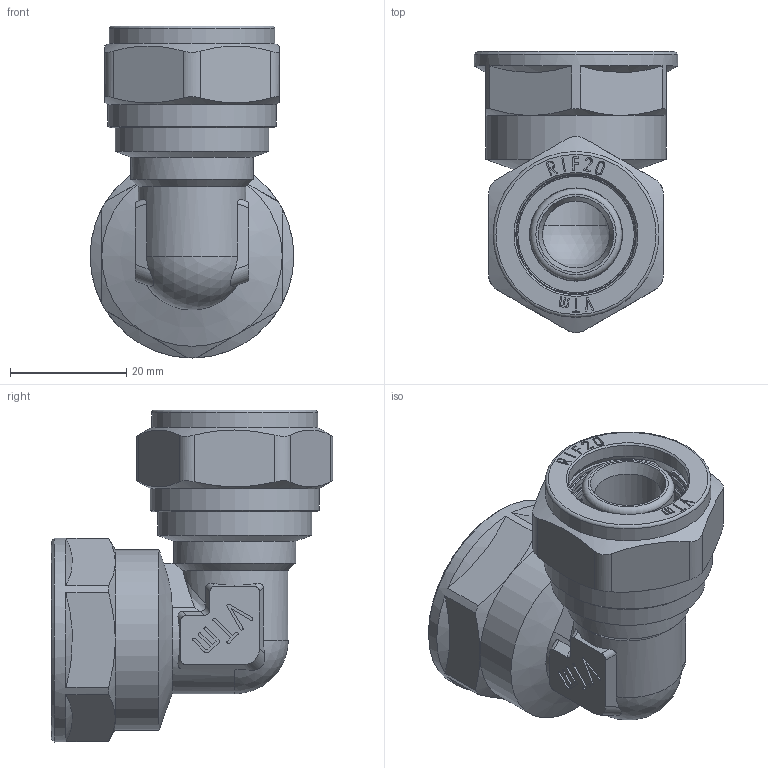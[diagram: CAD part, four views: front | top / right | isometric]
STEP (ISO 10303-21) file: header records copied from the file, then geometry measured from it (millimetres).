
FILE_DESCRIPTION(('STEP AP203'), '1');
FILE_NAME('VTm.352.N.002005', '', ('UNSPECIFIED'), ('UNSPECIFIED'), 'C3D Converter', 'C3D Toolkit', '');
FILE_SCHEMA(('CONFIG_CONTROL_DESIGN'));
Length unit declared in the file: millimetre
Products named in the file (1): ВР.302635.102.000 СБ
Bounding box: 35 x 48.35 x 57.03 mm (x, y, z)
Volume: 22055.4 mm3; surface area: 15032.3 mm2
Topology: 1 solids, 1 shells, 468 faces, 1290 edges, 848 vertices
Faces by surface type: extrusion 195, plane 166, cylinder 48, cone 28, torus 27, bspline 2, sphere 2
Full cylindrical faces by diameter (mm): 11.5 x1, 15 x1, 15.8 x4, 15.9 x1, 20.1 x1, 20.2 x1, 20.7 x1, 21 x1, 24.118 x2, 26.441 x1, 28.5 x1, 29 x1, 31 x1, 35 x1
Entity records: 17601 total; most frequent: CARTESIAN_POINT 6817, ORIENTED_EDGE 2486, DIRECTION 1574, EDGE_CURVE 1243, VERTEX_POINT 847, VECTOR 770, B_SPLINE_CURVE_WITH_KNOTS 695, LINE 575
